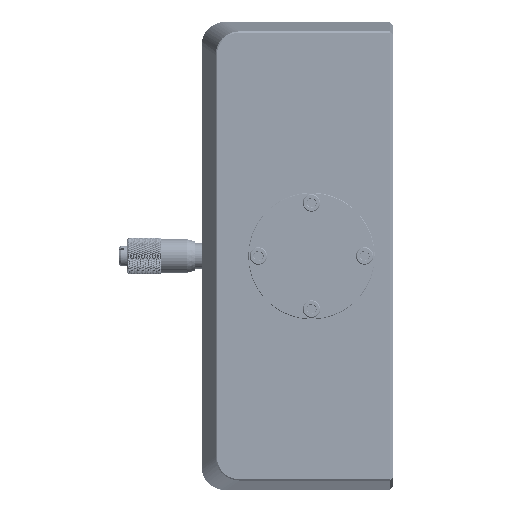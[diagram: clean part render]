
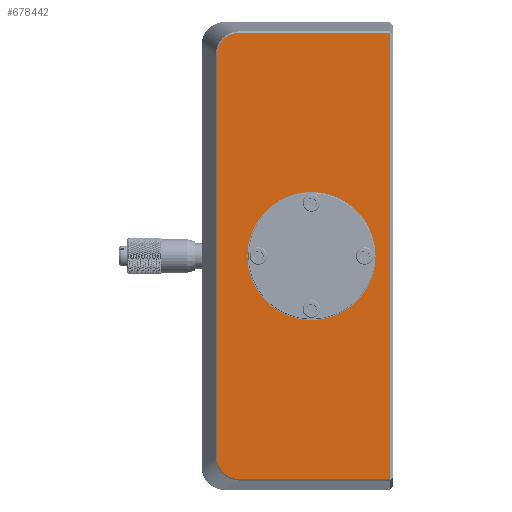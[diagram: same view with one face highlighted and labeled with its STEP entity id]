
A CAD part, left-side view. The second image highlights one B-rep face of the part: STEP entity #678442.
In plain terms, the highlighted planar face has unit normal (-1, 0, 0).
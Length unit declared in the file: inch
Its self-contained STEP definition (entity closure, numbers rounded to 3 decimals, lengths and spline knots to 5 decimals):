
#1059 = CARTESIAN_POINT ( 'NONE',  ( -3.25, 116.19445, 2.33411 ) ) ;
#15231 = CARTESIAN_POINT ( 'NONE',  ( -3.25, 116.22503, -2.32817 ) ) ;
#18731 = VECTOR ( 'NONE', #192857, 39.37008 ) ;
#22503 = CARTESIAN_POINT ( 'NONE',  ( -3.25, 116.39885, -2.11813 ) ) ;
#56425 = CARTESIAN_POINT ( 'NONE',  ( -3.25, 116.30756, 2.28811 ) ) ;
#63707 = CARTESIAN_POINT ( 'NONE',  ( -3.25, 116.225, 2.32817 ) ) ;
#67056 = CARTESIAN_POINT ( 'NONE',  ( -3.25, 116.39885, -2.10278 ) ) ;
#67364 = CARTESIAN_POINT ( 'NONE',  ( -3.25, 116.39133, 2.16365 ) ) ;
#74297 = CARTESIAN_POINT ( 'NONE',  ( -3.25, 116.28182, -2.30506 ) ) ;
#77924 = VERTEX_POINT ( 'NONE', #661266 ) ;
#82655 = EDGE_CURVE ( 'NONE', #536864, #230207, #307353, .T. ) ;
#90655 = ORIENTED_EDGE ( 'NONE', *, *, #103248, .T. ) ;
#103248 = EDGE_CURVE ( 'NONE', #225502, #536864, #602408, .T. ) ;
#108590 = CIRCLE ( 'NONE', #686865, 0.67 ) ;
#119173 = DIRECTION ( 'NONE',  ( -1., 0., 0. ) ) ;
#122827 = CARTESIAN_POINT ( 'NONE',  ( -3.25, 116.31945, 2.27848 ) ) ;
#123122 = CARTESIAN_POINT ( 'NONE',  ( -3.25, 116.16349, 2.3356 ) ) ;
#123904 = DIRECTION ( 'NONE',  ( 0., 0., 1. ) ) ;
#126333 = CARTESIAN_POINT ( 'NONE',  ( -3.25, 115.55985, 0. ) ) ;
#126446 = CARTESIAN_POINT ( 'NONE',  ( -3.25, 116.39885, 2.11818 ) ) ;
#129935 = FACE_BOUND ( 'NONE', #462681, .T. ) ;
#131639 = CARTESIAN_POINT ( 'NONE',  ( -3.25, 114.58985, 2.3356 ) ) ;
#172676 = ORIENTED_EDGE ( 'NONE', *, *, #303746, .F. ) ;
#182302 = VECTOR ( 'NONE', #349377, 39.37008 ) ;
#185487 = CARTESIAN_POINT ( 'NONE',  ( -3.25, 116.17901, 2.33561 ) ) ;
#192857 = DIRECTION ( 'NONE',  ( 0., 0., -1. ) ) ;
#202653 = DIRECTION ( 'NONE',  ( 0., 0., 1. ) ) ;
#208445 = ORIENTED_EDGE ( 'NONE', *, *, #550934, .T. ) ;
#213360 = ORIENTED_EDGE ( 'NONE', *, *, #239478, .T. ) ;
#216708 = ORIENTED_EDGE ( 'NONE', *, *, #557230, .T. ) ;
#225502 = VERTEX_POINT ( 'NONE', #123122 ) ;
#226378 = CARTESIAN_POINT ( 'NONE',  ( -3.25, 116.3869, 2.17825 ) ) ;
#230207 = VERTEX_POINT ( 'NONE', #238784 ) ;
#236990 = CARTESIAN_POINT ( 'NONE',  ( -3.25, 116.36797, -2.21984 ) ) ;
#238784 = CARTESIAN_POINT ( 'NONE',  ( -3.25, 116.39885, -2.10278 ) ) ;
#239478 = EDGE_CURVE ( 'NONE', #230207, #77924, #448269, .T. ) ;
#247852 = CARTESIAN_POINT ( 'NONE',  ( -3.25, 116.34111, -2.25706 ) ) ;
#249251 = DIRECTION ( 'NONE',  ( -1., 0., 0. ) ) ;
#258095 = LINE ( 'NONE', #653216, #509834 ) ;
#262661 = ORIENTED_EDGE ( 'NONE', *, *, #82655, .T. ) ;
#265932 = EDGE_LOOP ( 'NONE', ( #208445, #216708, #283638, #90655, #262661, #213360 ) ) ;
#283638 = ORIENTED_EDGE ( 'NONE', *, *, #323127, .T. ) ;
#285820 = VERTEX_POINT ( 'NONE', #510687 ) ;
#292741 = CARTESIAN_POINT ( 'NONE',  ( -3.25, 116.16349, 2.3356 ) ) ;
#293007 = VERTEX_POINT ( 'NONE', #551479 ) ;
#299813 = FACE_OUTER_BOUND ( 'NONE', #265932, .T. ) ;
#303746 = EDGE_CURVE ( 'NONE', #293007, #285820, #108590, .T. ) ;
#307353 = LINE ( 'NONE', #595363, #18731 ) ;
#323127 = EDGE_CURVE ( 'NONE', #446172, #225502, #640941, .T. ) ;
#348110 = CARTESIAN_POINT ( 'NONE',  ( -3.25, 116.26823, 2.31222 ) ) ;
#349377 = DIRECTION ( 'NONE',  ( 0., 1., 0. ) ) ;
#350228 = AXIS2_PLACEMENT_3D ( 'NONE', #126333, #399790, #358842 ) ;
#351735 = CARTESIAN_POINT ( 'NONE',  ( -3.25, 116.3752, 2.2064 ) ) ;
#358842 = DIRECTION ( 'NONE',  ( 0., 1., 0. ) ) ;
#362319 = CARTESIAN_POINT ( 'NONE',  ( -3.25, 116.37521, -2.2064 ) ) ;
#379107 = VECTOR ( 'NONE', #544911, 39.37008 ) ;
#399790 = DIRECTION ( 'NONE',  ( 1., 0., 0. ) ) ;
#403239 = CARTESIAN_POINT ( 'NONE',  ( -3.25, 116.17906, -2.33561 ) ) ;
#403544 = CARTESIAN_POINT ( 'NONE',  ( -3.25, 116.2398, 2.32378 ) ) ;
#410476 = CARTESIAN_POINT ( 'NONE',  ( -3.25, 116.39133, -2.16362 ) ) ;
#439118 = ORIENTED_EDGE ( 'NONE', *, *, #555622, .F. ) ;
#446172 = VERTEX_POINT ( 'NONE', #131639 ) ;
#447019 = CARTESIAN_POINT ( 'NONE',  ( -3.25, 116.39885, 2.10278 ) ) ;
#448269 = B_SPLINE_CURVE_WITH_KNOTS ( 'NONE', 3,
 ( #67056, #22503, #521277, #410476, #694698, #362319, #236990, #632121, #247852, #473163, #583995, #74297, #462297, #691065, #15231, #698351, #403239, #465916 ),
 .UNSPECIFIED., .F., .F.,
 ( 4, 2, 2, 2, 2, 2, 2, 2, 4 ),
 ( 0., 0.125, 0.25, 0.375, 0.5, 0.625, 0.75, 0.875, 1. ),
 .UNSPECIFIED. ) ;
#451685 = CARTESIAN_POINT ( 'NONE',  ( -3.25, 116.39734, 2.13344 ) ) ;
#462297 = CARTESIAN_POINT ( 'NONE',  ( -3.25, 116.26824, -2.31221 ) ) ;
#462482 = AXIS2_PLACEMENT_3D ( 'NONE', #687740, #119173, #569756 ) ;
#462598 = CARTESIAN_POINT ( 'NONE',  ( -3.25, 116.39885, 2.10278 ) ) ;
#462681 = EDGE_LOOP ( 'NONE', ( #439118, #172676 ) ) ;
#465916 = CARTESIAN_POINT ( 'NONE',  ( -3.25, 116.16349, -2.3356 ) ) ;
#467508 = CARTESIAN_POINT ( 'NONE',  ( -3.25, 115.55985, 2.3356 ) ) ;
#473163 = CARTESIAN_POINT ( 'NONE',  ( -3.25, 116.31945, -2.27849 ) ) ;
#474559 = CARTESIAN_POINT ( 'NONE',  ( -3.25, 115.40985, 0. ) ) ;
#509834 = VECTOR ( 'NONE', #202653, 39.37008 ) ;
#510687 = CARTESIAN_POINT ( 'NONE',  ( -3.25, 115.40985, 0.67 ) ) ;
#521277 = CARTESIAN_POINT ( 'NONE',  ( -3.25, 116.39734, -2.13341 ) ) ;
#521581 = CARTESIAN_POINT ( 'NONE',  ( -3.25, 116.36797, 2.21984 ) ) ;
#525092 = PLANE ( 'NONE',  #350228 ) ;
#536864 = VERTEX_POINT ( 'NONE', #447019 ) ;
#544911 = DIRECTION ( 'NONE',  ( 0., -1., 0. ) ) ;
#550934 = EDGE_CURVE ( 'NONE', #77924, #556019, #603962, .T. ) ;
#551479 = CARTESIAN_POINT ( 'NONE',  ( -3.25, 115.40985, -0.67 ) ) ;
#555622 = EDGE_CURVE ( 'NONE', #285820, #293007, #709675, .T. ) ;
#556019 = VERTEX_POINT ( 'NONE', #647047 ) ;
#557230 = EDGE_CURVE ( 'NONE', #556019, #446172, #258095, .T. ) ;
#566129 = CARTESIAN_POINT ( 'NONE',  ( -3.25, 116.34111, 2.25706 ) ) ;
#569756 = DIRECTION ( 'NONE',  ( 0., 0., 1. ) ) ;
#583995 = CARTESIAN_POINT ( 'NONE',  ( -3.25, 116.30756, -2.28811 ) ) ;
#595363 = CARTESIAN_POINT ( 'NONE',  ( -3.25, 116.39885, 0. ) ) ;
#602408 = B_SPLINE_CURVE_WITH_KNOTS ( 'NONE', 3,
 ( #292741, #185487, #1059, #63707, #403544, #348110, #691373, #56425, #122827, #566129, #684156, #521581, #351735, #226378, #67364, #451685, #126446, #462598 ),
 .UNSPECIFIED., .F., .F.,
 ( 4, 2, 2, 2, 2, 2, 2, 2, 4 ),
 ( 0., 0.125, 0.25, 0.375, 0.5, 0.625, 0.75, 0.875, 1. ),
 .UNSPECIFIED. ) ;
#603962 = LINE ( 'NONE', #659316, #379107 ) ;
#632121 = CARTESIAN_POINT ( 'NONE',  ( -3.25, 116.35084, -2.2453 ) ) ;
#640941 = LINE ( 'NONE', #467508, #182302 ) ;
#647047 = CARTESIAN_POINT ( 'NONE',  ( -3.25, 114.58985, -2.3356 ) ) ;
#653216 = CARTESIAN_POINT ( 'NONE',  ( -3.25, 114.58985, 0. ) ) ;
#659316 = CARTESIAN_POINT ( 'NONE',  ( -3.25, 115.55985, -2.3356 ) ) ;
#661266 = CARTESIAN_POINT ( 'NONE',  ( -3.25, 116.16349, -2.3356 ) ) ;
#678442 = ADVANCED_FACE ( 'NONE', ( #129935, #299813 ), #525092, .F. ) ;
#684156 = CARTESIAN_POINT ( 'NONE',  ( -3.25, 116.35084, 2.2453 ) ) ;
#686865 = AXIS2_PLACEMENT_3D ( 'NONE', #474559, #249251, #123904 ) ;
#687740 = CARTESIAN_POINT ( 'NONE',  ( -3.25, 115.40985, 0. ) ) ;
#691065 = CARTESIAN_POINT ( 'NONE',  ( -3.25, 116.23979, -2.32379 ) ) ;
#691373 = CARTESIAN_POINT ( 'NONE',  ( -3.25, 116.28182, 2.30506 ) ) ;
#694698 = CARTESIAN_POINT ( 'NONE',  ( -3.25, 116.38689, -2.17826 ) ) ;
#698351 = CARTESIAN_POINT ( 'NONE',  ( -3.25, 116.19448, -2.33412 ) ) ;
#709675 = CIRCLE ( 'NONE', #462482, 0.67 ) ;
